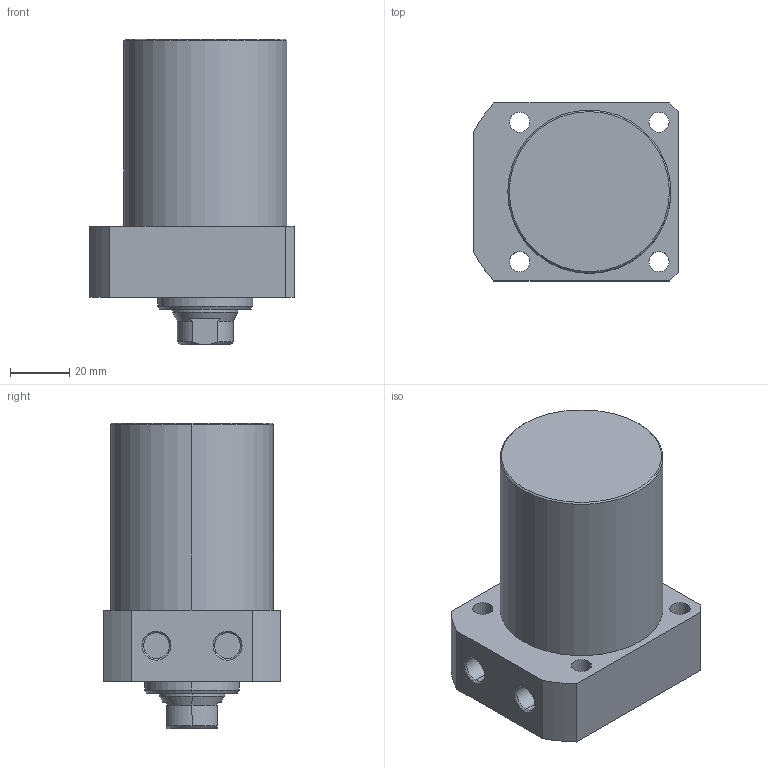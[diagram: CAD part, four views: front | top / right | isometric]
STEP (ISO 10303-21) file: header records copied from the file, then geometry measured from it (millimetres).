
FILE_DESCRIPTION (( 'STEP AP203' ), '1' );
FILE_NAME ('CLLR-055CA-050.STEP', '2019-12-19T07:27:33', ( '' ), ( '' ), 'SwSTEP 2.0', 'SolidWorks 2015', '' );
FILE_SCHEMA (( 'CONFIG_CONTROL_DESIGN' ));
Length unit declared in the file: millimetre
Products named in the file (1): CLLR-055CA-050
Bounding box: 69 x 60 x 103 mm (x, y, z)
Volume: 247314.1 mm3; surface area: 29067.7 mm2
Topology: 1 solids, 1 shells, 65 faces, 151 edges, 94 vertices
Faces by surface type: cylinder 29, plane 19, cone 17
Entity records: 1967 total; most frequent: CARTESIAN_POINT 349, DIRECTION 348, ORIENTED_EDGE 298, EDGE_CURVE 149, AXIS2_PLACEMENT_3D 141, VERTEX_POINT 94, EDGE_LOOP 81, CIRCLE 75
